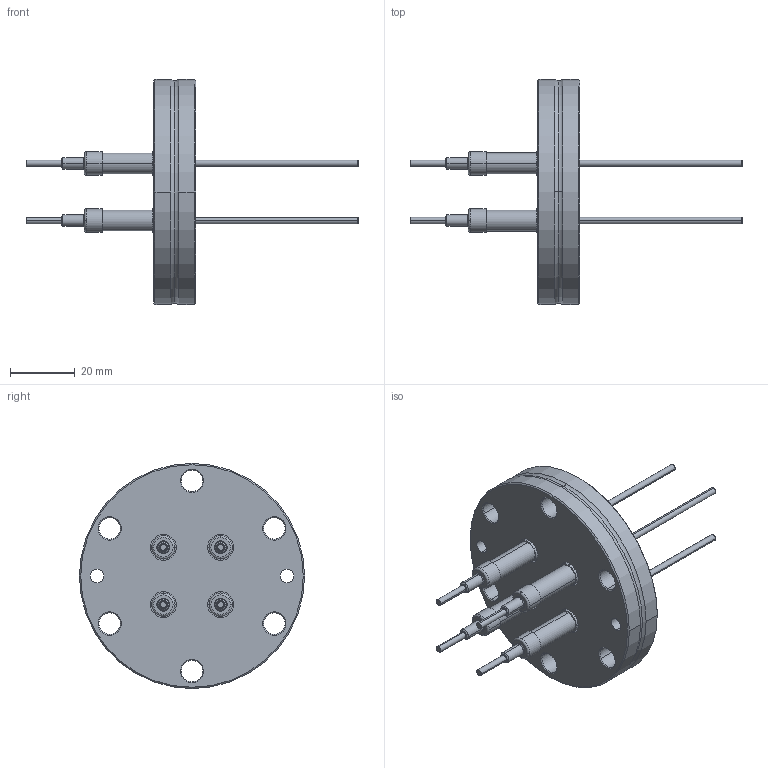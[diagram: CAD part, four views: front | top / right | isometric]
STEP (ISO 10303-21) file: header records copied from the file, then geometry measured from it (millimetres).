
FILE_DESCRIPTION((''),'2;1');
FILE_NAME('W:\214-116.stp','2004-01-23T12:58:13',('KAA'),(''),'Autodesk Inventor (R) 6.0','Autodesk Inventor (R) 6.0','');
FILE_SCHEMA(('CONFIG_CONTROL_DESIGN'));
Length unit declared in the file: millimetre
Products named in the file (1): 214-116
Bounding box: 102.5 x 69.5 x 69.5 mm (x, y, z)
Volume: 46296.2 mm3; surface area: 19207 mm2
Topology: 5 solids, 5 shells, 304 faces, 681 edges, 429 vertices
Faces by surface type: cone 86, cylinder 76, plane 48, bspline 48, torus 46
Entity records: 9683 total; most frequent: CARTESIAN_POINT 2499, DIRECTION 1682, ORIENTED_EDGE 1362, AXIS2_PLACEMENT_3D 744, EDGE_CURVE 681, CIRCLE 487, VERTEX_POINT 429, EDGE_LOOP 370
